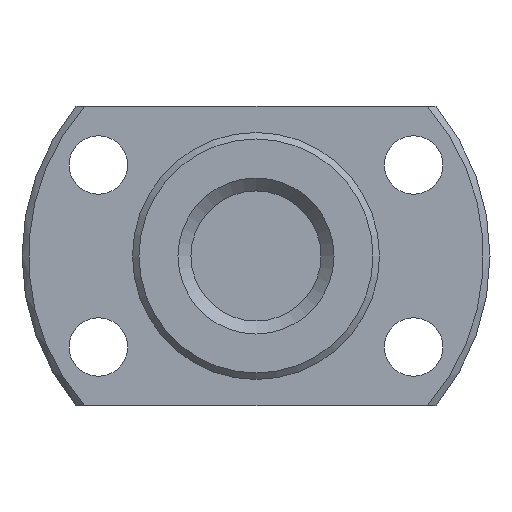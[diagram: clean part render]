
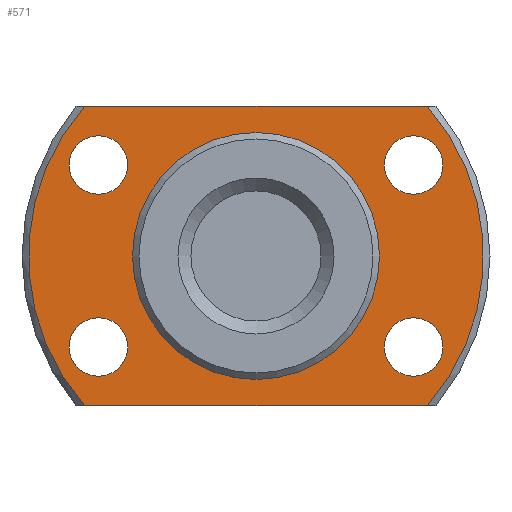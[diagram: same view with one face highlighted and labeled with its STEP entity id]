
A CAD part, left-side view. The second image highlights one B-rep face of the part: STEP entity #571.
In plain terms, the highlighted planar face has unit normal (-1, 0, 0) as drawn and (1, 0, 0) by its records, which use the part's own axes.
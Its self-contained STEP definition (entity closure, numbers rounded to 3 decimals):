
#83=CIRCLE('',#661,2.25);
#84=CIRCLE('',#662,2.25);
#85=CIRCLE('',#663,2.25);
#86=CIRCLE('',#664,2.25);
#87=CIRCLE('',#665,9.35);
#88=CIRCLE('',#666,17.5);
#89=CIRCLE('',#667,17.5);
#161=ORIENTED_EDGE('',*,*,#270,.T.);
#162=ORIENTED_EDGE('',*,*,#271,.T.);
#163=ORIENTED_EDGE('',*,*,#272,.T.);
#164=ORIENTED_EDGE('',*,*,#273,.T.);
#165=ORIENTED_EDGE('',*,*,#274,.F.);
#166=ORIENTED_EDGE('',*,*,#275,.T.);
#167=ORIENTED_EDGE('',*,*,#276,.T.);
#168=ORIENTED_EDGE('',*,*,#277,.T.);
#169=ORIENTED_EDGE('',*,*,#278,.T.);
#270=EDGE_CURVE('',#331,#331,#83,.F.);
#271=EDGE_CURVE('',#332,#332,#84,.F.);
#272=EDGE_CURVE('',#333,#333,#85,.F.);
#273=EDGE_CURVE('',#334,#334,#86,.F.);
#274=EDGE_CURVE('',#335,#335,#87,.T.);
#275=EDGE_CURVE('',#336,#337,#88,.T.);
#276=EDGE_CURVE('',#337,#338,#368,.T.);
#277=EDGE_CURVE('',#338,#339,#89,.T.);
#278=EDGE_CURVE('',#339,#336,#369,.T.);
#331=VERTEX_POINT('',#972);
#332=VERTEX_POINT('',#974);
#333=VERTEX_POINT('',#976);
#334=VERTEX_POINT('',#978);
#335=VERTEX_POINT('',#980);
#336=VERTEX_POINT('',#982);
#337=VERTEX_POINT('',#983);
#338=VERTEX_POINT('',#985);
#339=VERTEX_POINT('',#987);
#368=LINE('',#984,#386);
#369=LINE('',#988,#387);
#386=VECTOR('',#812,1000.);
#387=VECTOR('',#815,1000.);
#424=EDGE_LOOP('',(#161));
#425=EDGE_LOOP('',(#162));
#426=EDGE_LOOP('',(#163));
#427=EDGE_LOOP('',(#164));
#428=EDGE_LOOP('',(#165));
#429=EDGE_LOOP('',(#166,#167,#168,#169));
#496=FACE_BOUND('',#424,.T.);
#497=FACE_BOUND('',#425,.T.);
#498=FACE_BOUND('',#426,.T.);
#499=FACE_BOUND('',#427,.T.);
#500=FACE_BOUND('',#428,.T.);
#501=FACE_BOUND('',#429,.T.);
#547=PLANE('',#660);
#571=ADVANCED_FACE('',(#496,#497,#498,#499,#500,#501),#547,.T.);
#660=AXIS2_PLACEMENT_3D('',#970,#798,#799);
#661=AXIS2_PLACEMENT_3D('',#971,#800,#801);
#662=AXIS2_PLACEMENT_3D('',#973,#802,#803);
#663=AXIS2_PLACEMENT_3D('',#975,#804,#805);
#664=AXIS2_PLACEMENT_3D('',#977,#806,#807);
#665=AXIS2_PLACEMENT_3D('',#979,#808,#809);
#666=AXIS2_PLACEMENT_3D('',#981,#810,#811);
#667=AXIS2_PLACEMENT_3D('',#986,#813,#814);
#798=DIRECTION('',(1.,0.,0.));
#799=DIRECTION('',(0.,0.,-1.));
#800=DIRECTION('',(1.,0.,0.));
#801=DIRECTION('',(0.,0.,-1.));
#802=DIRECTION('',(1.,0.,0.));
#803=DIRECTION('',(0.,0.,-1.));
#804=DIRECTION('',(1.,0.,0.));
#805=DIRECTION('',(0.,0.,-1.));
#806=DIRECTION('',(1.,0.,0.));
#807=DIRECTION('',(0.,0.,-1.));
#808=DIRECTION('',(1.,0.,0.));
#809=DIRECTION('',(0.,0.,-1.));
#810=DIRECTION('',(1.,0.,0.));
#811=DIRECTION('',(0.,0.,-1.));
#812=DIRECTION('',(0.,-1.,0.));
#813=DIRECTION('',(1.,0.,0.));
#814=DIRECTION('',(0.,0.,-1.));
#815=DIRECTION('',(0.,1.,0.));
#970=CARTESIAN_POINT('',(6.,9.35,0.));
#971=CARTESIAN_POINT('',(6.,12.124,7.));
#972=CARTESIAN_POINT('',(6.,12.124,4.75));
#973=CARTESIAN_POINT('',(6.,-12.124,-7.));
#974=CARTESIAN_POINT('',(6.,-12.124,-9.25));
#975=CARTESIAN_POINT('',(6.,-12.124,7.));
#976=CARTESIAN_POINT('',(6.,-12.124,4.75));
#977=CARTESIAN_POINT('',(6.,12.124,-7.));
#978=CARTESIAN_POINT('',(6.,12.124,-9.25));
#979=CARTESIAN_POINT('',(6.,0.,0.));
#980=CARTESIAN_POINT('',(6.,0.,-9.35));
#981=CARTESIAN_POINT('',(6.,0.,0.));
#982=CARTESIAN_POINT('',(6.,13.191,-11.5));
#983=CARTESIAN_POINT('',(6.,13.191,11.5));
#984=CARTESIAN_POINT('',(6.,9.35,11.5));
#985=CARTESIAN_POINT('',(6.,-13.191,11.5));
#986=CARTESIAN_POINT('',(6.,0.,0.));
#987=CARTESIAN_POINT('',(6.,-13.191,-11.5));
#988=CARTESIAN_POINT('',(6.,9.35,-11.5));
